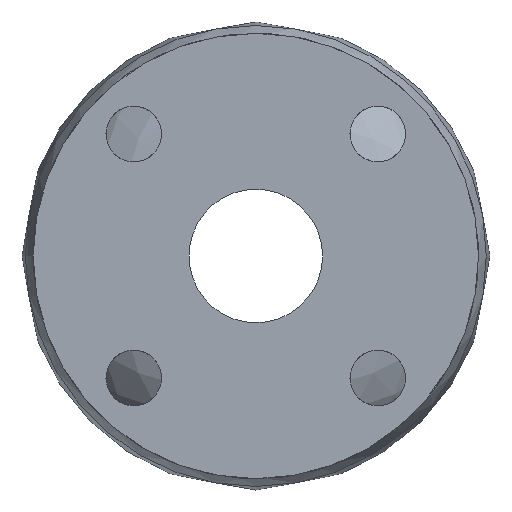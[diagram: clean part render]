
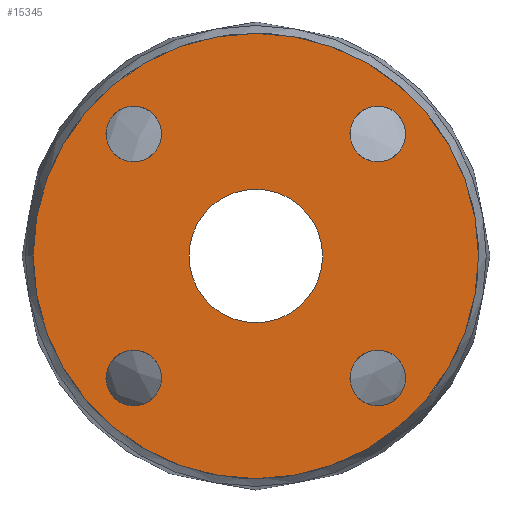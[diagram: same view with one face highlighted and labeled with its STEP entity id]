
A CAD part, left-side view. The second image highlights one B-rep face of the part: STEP entity #15345.
In plain terms, the highlighted planar face has unit normal (-1, 0, 0).
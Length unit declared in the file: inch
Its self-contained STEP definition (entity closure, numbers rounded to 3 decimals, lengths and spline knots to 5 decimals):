
#15098=CARTESIAN_POINT('',(-5.,-1.05752,-1.37002));
#15099=VERTEX_POINT('',#15098);
#15100=CARTESIAN_POINT('',(-5.,-1.37002,-1.37002));
#15101=DIRECTION('',(1.0,0.0,0.0));
#15102=DIRECTION('',(0.0,-1.0,0.0));
#15103=AXIS2_PLACEMENT_3D('',#15100,#15101,#15102);
#15104=CIRCLE('',#15103,0.3125);
#15105=EDGE_CURVE('',#15099,#15099,#15104,.T.);
#15126=CARTESIAN_POINT('',(-5.,-1.37002,1.05752));
#15127=VERTEX_POINT('',#15126);
#15128=CARTESIAN_POINT('',(-5.,-1.37002,1.37002));
#15129=DIRECTION('',(1.0,0.0,0.0));
#15130=DIRECTION('',(0.0,0.0,1.0));
#15131=AXIS2_PLACEMENT_3D('',#15128,#15129,#15130);
#15132=CIRCLE('',#15131,0.3125);
#15133=EDGE_CURVE('',#15127,#15127,#15132,.T.);
#15154=CARTESIAN_POINT('',(-5.,1.05752,1.37002));
#15155=VERTEX_POINT('',#15154);
#15156=CARTESIAN_POINT('',(-5.,1.37002,1.37002));
#15157=DIRECTION('',(1.0,0.0,0.0));
#15158=DIRECTION('',(0.0,1.0,0.0));
#15159=AXIS2_PLACEMENT_3D('',#15156,#15157,#15158);
#15160=CIRCLE('',#15159,0.3125);
#15161=EDGE_CURVE('',#15155,#15155,#15160,.T.);
#15182=CARTESIAN_POINT('',(-5.,1.37002,-1.05752));
#15183=VERTEX_POINT('',#15182);
#15184=CARTESIAN_POINT('',(-5.,1.37002,-1.37002));
#15185=DIRECTION('',(1.0,0.0,0.0));
#15186=DIRECTION('',(0.0,0.0,-1.0));
#15187=AXIS2_PLACEMENT_3D('',#15184,#15185,#15186);
#15188=CIRCLE('',#15187,0.3125);
#15189=EDGE_CURVE('',#15183,#15183,#15188,.T.);
#15306=CARTESIAN_POINT('',(-5.,2.4375,0.0));
#15307=DIRECTION('',(-1.0,0.0,0.0));
#15308=DIRECTION('',(0.0,0.0,1.0));
#15309=AXIS2_PLACEMENT_3D('',#15306,#15307,#15308);
#15310=PLANE('',#15309);
#15311=CARTESIAN_POINT('',(-5.,2.5,0.0));
#15312=VERTEX_POINT('',#15311);
#15313=CARTESIAN_POINT('',(-5.,0.0,0.0));
#15314=DIRECTION('',(1.0,0.0,0.0));
#15315=DIRECTION('',(0.0,1.0,0.0));
#15316=AXIS2_PLACEMENT_3D('',#15313,#15314,#15315);
#15317=CIRCLE('',#15316,2.5);
#15318=EDGE_CURVE('',#15312,#15312,#15317,.T.);
#15319=ORIENTED_EDGE('',*,*,#15318,.F.);
#15320=EDGE_LOOP('',(#15319));
#15321=FACE_OUTER_BOUND('',#15320,.T.);
#15322=ORIENTED_EDGE('',*,*,#15105,.T.);
#15323=EDGE_LOOP('',(#15322));
#15324=FACE_BOUND('',#15323,.T.);
#15325=ORIENTED_EDGE('',*,*,#15133,.T.);
#15326=EDGE_LOOP('',(#15325));
#15327=FACE_BOUND('',#15326,.T.);
#15328=ORIENTED_EDGE('',*,*,#15161,.T.);
#15329=EDGE_LOOP('',(#15328));
#15330=FACE_BOUND('',#15329,.T.);
#15331=ORIENTED_EDGE('',*,*,#15189,.T.);
#15332=EDGE_LOOP('',(#15331));
#15333=FACE_BOUND('',#15332,.T.);
#15334=CARTESIAN_POINT('',(-5.,0.75,0.0));
#15335=VERTEX_POINT('',#15334);
#15336=CARTESIAN_POINT('',(-5.,0.0,0.0));
#15337=DIRECTION('',(1.0,0.0,0.0));
#15338=DIRECTION('',(0.0,1.0,0.0));
#15339=AXIS2_PLACEMENT_3D('',#15336,#15337,#15338);
#15340=CIRCLE('',#15339,0.75);
#15341=EDGE_CURVE('',#15335,#15335,#15340,.T.);
#15342=ORIENTED_EDGE('',*,*,#15341,.T.);
#15343=EDGE_LOOP('',(#15342));
#15344=FACE_BOUND('',#15343,.T.);
#15345=ADVANCED_FACE('',(#15321,#15324,#15327,#15330,#15333,#15344),#15310,.T.);
